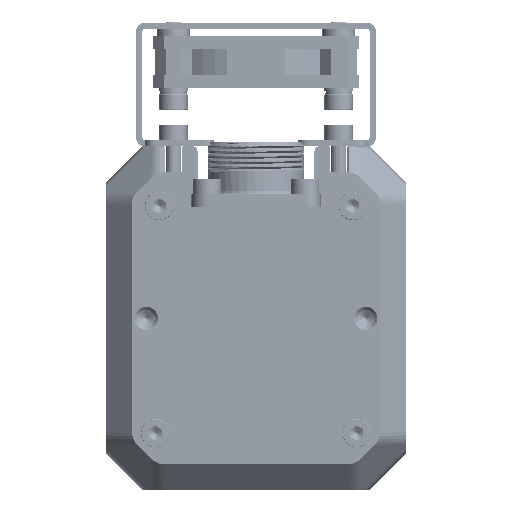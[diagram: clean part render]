
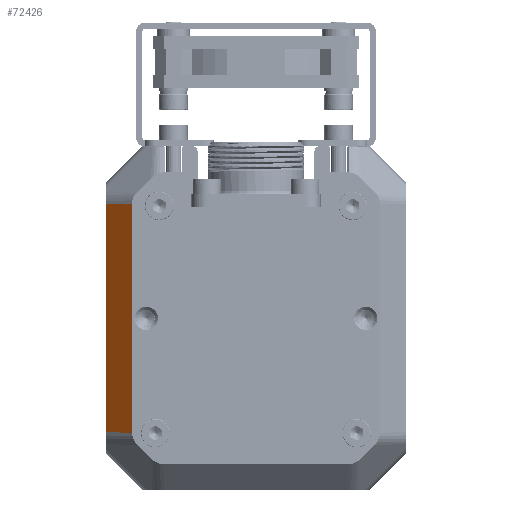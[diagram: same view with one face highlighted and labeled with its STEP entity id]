
A CAD part, front view. The second image highlights one B-rep face of the part: STEP entity #72426.
In plain terms, the highlighted planar face has unit normal (-0.707, -0.707, 0) as drawn and (0.707, 0, 0.707) by its records, which use the part's own axes.
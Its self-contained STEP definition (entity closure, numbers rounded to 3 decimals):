
#66242=DIRECTION('',(0.,1.,0.));
#66243=VECTOR('',#66242,44.094);
#66244=CARTESIAN_POINT('',(29.,-55.297,-5.));
#66245=LINE('',#66244,#66243);
#67091=CARTESIAN_POINT('',(29.,-55.297,-5.));
#67101=DIRECTION('',(-0.707,-0.02,0.707));
#67102=VECTOR('',#67101,7.072);
#67103=CARTESIAN_POINT('',(29.,-55.297,-5.));
#67104=LINE('',#67103,#67102);
#67108=DIRECTION('',(0.,1.,0.));
#67109=VECTOR('',#67108,44.371);
#67110=CARTESIAN_POINT('',(24.,-55.435,0.));
#67111=LINE('',#67110,#67109);
#67115=DIRECTION('',(0.707,-0.02,-0.707));
#67116=VECTOR('',#67115,7.072);
#67117=CARTESIAN_POINT('',(24.,-11.065,0.));
#67118=LINE('',#67117,#67116);
#67122=CARTESIAN_POINT('',(24.,-11.065,0.));
#68729=VERTEX_POINT('',#67122);
#68730=CARTESIAN_POINT('',(24.,-55.435,0.));
#68731=VERTEX_POINT('',#68730);
#69396=VERTEX_POINT('',#67091);
#69397=CARTESIAN_POINT('',(29.,-11.203,-5.));
#69398=VERTEX_POINT('',#69397);
#72414=CARTESIAN_POINT('',(26.5,-33.25,-2.5));
#72415=DIRECTION('',(0.707,0.,0.707));
#72416=DIRECTION('',(0.707,0.,-0.707));
#72417=AXIS2_PLACEMENT_3D('',#72414,#72415,#72416);
#72418=PLANE('',#72417);
#72419=ORIENTED_EDGE('',*,*,#71596,.F.);
#72420=ORIENTED_EDGE('',*,*,#72407,.T.);
#72421=ORIENTED_EDGE('',*,*,#69672,.T.);
#72423=ORIENTED_EDGE('',*,*,#72422,.T.);
#72424=EDGE_LOOP('',(#72419,#72420,#72421,#72423));
#72425=FACE_OUTER_BOUND('',#72424,.F.);
#69672=EDGE_CURVE('',#68731,#68729,#67111,.T.);
#71596=EDGE_CURVE('',#69396,#69398,#66245,.T.);
#72407=EDGE_CURVE('',#69396,#68731,#67104,.T.);
#72422=EDGE_CURVE('',#68729,#69398,#67118,.T.);
#72426=ADVANCED_FACE('',(#72425),#72418,.T.);
